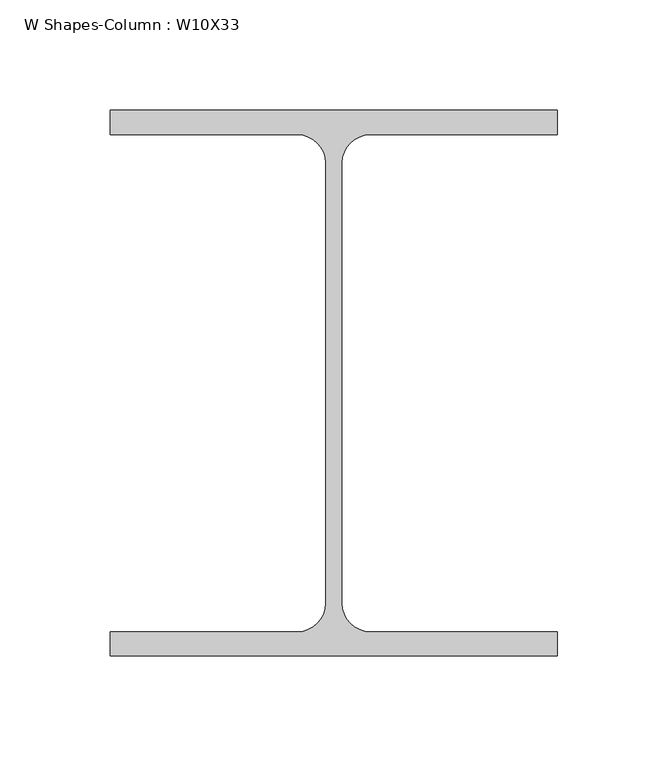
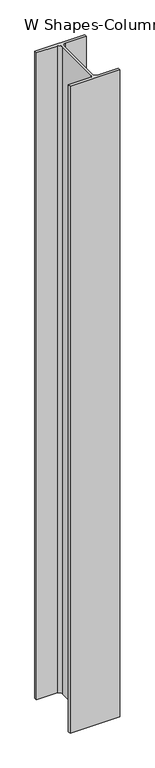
"""IFC4 building model written with IfcOpenShell, lengths in millimetres: column geometry, W Shapes-Column : W10X33."""

import ifcopenshell
import ifcopenshell.guid

model = None  # the IFC model being written
_history = None  # IfcOwnerHistory: only IFC2X3 demands one
_inside = {}  # id of a spatial element -> (the spatial element, [elements in it])
_under = {}  # id of a project, library or spatial element -> (it, [spatial elements below it])
_declared = {}  # id of a project -> (the project, [libraries it declares])
_typed = {}  # id of a type object -> (the type object, [elements of that type])
_made_of = {}  # id of a material, layer set ... -> (it, [elements and type objects made of it])


def new_model(schema):
    """Start an empty IFC model of exactly this schema.

    Asked for "IFC4X3", IfcOpenShell would pick the latest addendum, in which some entities
    have other attributes; the version numbers below select the first issue.
    IFC2X3 requires an IfcOwnerHistory on every rooted entity: one is made here for all.
    """
    global model, _history
    if schema == "IFC4X3":
        model = ifcopenshell.file(schema_version=(4, 3, 0, 0))
    else:
        model = ifcopenshell.file(schema=schema)
    _inside.clear()
    _under.clear()
    _declared.clear()
    _typed.clear()
    _made_of.clear()
    _history = None
    if model.schema == "IFC2X3":
        org = make("IfcOrganization", Name="unknown")
        user = make(
            "IfcPersonAndOrganization",
            ThePerson=make("IfcPerson", FamilyName="unknown"),
            TheOrganization=org,
        )
        app = make(
            "IfcApplication",
            ApplicationDeveloper=org,
            Version="unknown",
            ApplicationFullName="unknown",
            ApplicationIdentifier="unknown",
        )
        _history = make(
            "IfcOwnerHistory",
            OwningUser=user,
            OwningApplication=app,
            ChangeAction="ADDED",
            CreationDate=0,
        )
    return model


def make(cls, **values):
    """One entity of the class cls with the attributes given. An attribute that is None is left unset."""
    return model.create_entity(
        cls, **{name: value for name, value in values.items() if value is not None}
    )


def rooted(cls, **values):
    """An entity with a GlobalId (a new one), such as an element, a storey or a relation."""
    return make(cls, GlobalId=ifcopenshell.guid.new(), OwnerHistory=_history, **values)


def si_unit(unit_type, name, prefix=None):
    """IfcSIUnit, for example si_unit("LENGTHUNIT", "METRE", prefix="MILLI")."""
    return make("IfcSIUnit", UnitType=unit_type, Prefix=prefix, Name=name)


def assignment(units):
    """IfcUnitAssignment: the units of a project."""
    return None if units is None else make("IfcUnitAssignment", Units=units)


def point(xyz):
    """IfcCartesianPoint."""
    return None if xyz is None else make("IfcCartesianPoint", Coordinates=xyz)


def direction(xyz):
    """IfcDirection."""
    return None if xyz is None else make("IfcDirection", DirectionRatios=xyz)


def frame(location, z_axis=None, x_axis=None):
    """IfcAxis2Placement3D, a coordinate frame: its origin and axes. An axis left out is left unset."""
    return make(
        "IfcAxis2Placement3D",
        Location=point(location),
        Axis=direction(z_axis),
        RefDirection=direction(x_axis),
    )


def frame_2d(location, x_axis=None):
    """IfcAxis2Placement2D, a coordinate frame in the plane: its origin and x axis."""
    return make(
        "IfcAxis2Placement2D", Location=point(location), RefDirection=direction(x_axis)
    )


def origin():
    """The frame at (0, 0, 0) with its axes left unset."""
    return frame((0.0, 0.0, 0.0))


def place(relative_to, where):
    """IfcLocalPlacement: puts the frame where relative to a parent placement (None: the world)."""
    return make(
        "IfcLocalPlacement", PlacementRelTo=relative_to, RelativePlacement=where
    )


def context(
    kind, dimensions, precision=None, world=None, true_north=None, identifier=None
):
    """IfcGeometricRepresentationContext, for example the 3D "Model" context."""
    return make(
        "IfcGeometricRepresentationContext",
        ContextIdentifier=identifier,
        ContextType=kind,
        CoordinateSpaceDimension=dimensions,
        Precision=precision,
        WorldCoordinateSystem=world,
        TrueNorth=true_north,
    )


def project(units=None, contexts=None):
    """IfcProject with its units and contexts."""
    return rooted(
        "IfcProject",
        Name="project",
        RepresentationContexts=contexts,
        UnitsInContext=assignment(units),
    )


def spatial(cls, under=None, at=None, **own):
    """A site, building, storey or space (cls), placed at a placement, below another one or the project."""
    s = rooted(cls, ObjectPlacement=at, **own)
    if under is not None:
        _under.setdefault(under.id(), (under, []))[1].append(s)
    return s


def polyline(points):
    """IfcPolyline through the points."""
    return make("IfcPolyline", Points=[point(p) for p in points])


def circle_curve(where, radius):
    """IfcCircle in the frame where."""
    return make("IfcCircle", Position=where, Radius=radius)


def trimmed(basis, trim1, trim2, sense, master):
    """IfcTrimmedCurve: the piece of a basis curve between two trims."""
    return make(
        "IfcTrimmedCurve",
        BasisCurve=basis,
        Trim1=trim1,
        Trim2=trim2,
        SenseAgreement=sense,
        MasterRepresentation=master,
    )


def segment(curve, same_sense, transition):
    """IfcCompositeCurveSegment."""
    return make(
        "IfcCompositeCurveSegment",
        Transition=transition,
        SameSense=same_sense,
        ParentCurve=curve,
    )


def composite_curve(segments, self_intersect=None):
    """IfcCompositeCurve: segments joined end to end."""
    return make("IfcCompositeCurve", Segments=segments, SelfIntersect=self_intersect)


def outline(outer, holes=None, kind="AREA"):
    """IfcArbitraryClosedProfileDef: a profile drawn as a closed curve; with holes, ...WithVoids."""
    if holes is None:
        return make("IfcArbitraryClosedProfileDef", ProfileType=kind, OuterCurve=outer)
    return make(
        "IfcArbitraryProfileDefWithVoids",
        ProfileType=kind,
        OuterCurve=outer,
        InnerCurves=holes,
    )


def extrude(swept, where, along, depth):
    """IfcExtrudedAreaSolid: the profile swept, set in the frame where, extruded along a direction by depth."""
    return make(
        "IfcExtrudedAreaSolid",
        SweptArea=swept,
        Position=where,
        ExtrudedDirection=direction(along),
        Depth=depth,
    )


def shape(context_of_items, identifier, shape_type, items):
    """IfcShapeRepresentation: the items that make up one representation, for example the "Body"."""
    return make(
        "IfcShapeRepresentation",
        ContextOfItems=context_of_items,
        RepresentationIdentifier=identifier,
        RepresentationType=shape_type,
        Items=items,
    )


def source(mapping_origin, context_of_items, identifier, shape_type, items):
    """IfcRepresentationMap: a shape defined once, which mapped items show again and again."""
    return make(
        "IfcRepresentationMap",
        MappingOrigin=mapping_origin,
        MappedRepresentation=shape(context_of_items, identifier, shape_type, items),
    )


def transform(
    local_origin,
    x_axis=None,
    y_axis=None,
    z_axis=None,
    scale=None,
    scale2=None,
    scale3=None,
    uniform=True,
):
    """IfcCartesianTransformationOperator3D, or its non-uniform kind. x_axis, y_axis, z_axis: its Axis1, 2, 3."""
    if uniform:
        return make(
            "IfcCartesianTransformationOperator3D",
            Axis1=direction(x_axis),
            Axis2=direction(y_axis),
            LocalOrigin=point(local_origin),
            Scale=scale,
            Axis3=direction(z_axis),
        )
    return make(
        "IfcCartesianTransformationOperator3DnonUniform",
        Axis1=direction(x_axis),
        Axis2=direction(y_axis),
        LocalOrigin=point(local_origin),
        Scale=scale,
        Axis3=direction(z_axis),
        Scale2=scale2,
        Scale3=scale3,
    )


def mapped(mapping_source, mapping_target):
    """IfcMappedItem: shows the shape of a source again, moved by a transform."""
    return make(
        "IfcMappedItem", MappingSource=mapping_source, MappingTarget=mapping_target
    )


def made_of(thing, what):
    """Note that an element or type object is made of a material, layer set ...; save() writes the relation."""
    if what is not None:
        _made_of.setdefault(what.id(), (what, []))[1].append(thing)
    return thing


def element(
    cls,
    number,
    at=None,
    inside=None,
    cuts=None,
    type_object=None,
    material=None,
    context=None,
    identifier="Body",
    shape_type=None,
    held_by="IfcProductDefinitionShape",
    body=None,
    shapes=None,
    **own,
):
    """One element of the class cls, such as IfcWall. Its Tag is "e" and its number.

    at: its placement. inside: the storey or other place that contains it. cuts: it is an
    opening in that element (IfcRelVoidsElement). A single representation is given by context,
    identifier, shape_type and body (its items); several are given by shapes. held_by: the class
    of the entity that holds the representations. save() writes the other relations.
    """
    e = rooted(cls, Tag="e%d" % number, ObjectPlacement=at, **own)
    if body is not None:
        shapes = [shape(context, identifier, shape_type, body)]
    if shapes is not None:
        e.Representation = make(held_by, Representations=shapes)
    if inside is not None:
        _inside.setdefault(inside.id(), (inside, []))[1].append(e)
    if cuts is not None:
        rooted(
            "IfcRelVoidsElement", RelatingBuildingElement=cuts, RelatedOpeningElement=e
        )
    if type_object is not None:
        _typed.setdefault(type_object.id(), (type_object, []))[1].append(e)
    return made_of(e, material)


def aggregate(whole, parts):
    """IfcRelAggregates: a whole, such as a stair, and the parts it consists of."""
    return rooted("IfcRelAggregates", RelatingObject=whole, RelatedObjects=parts)


def save(model, path):
    """Write the relations noted so far, then the file.

    IfcRelAggregates (storeys below a building ...), IfcRelContainedInSpatialStructure (elements
    in a storey), IfcRelDefinesByType, IfcRelAssociatesMaterial and IfcRelDeclares: one each for
    every whole, place, type object, material and project.
    """
    for whole, parts in _under.values():
        aggregate(whole, parts)
    for where, things in _inside.values():
        rooted(
            "IfcRelContainedInSpatialStructure",
            RelatedElements=things,
            RelatingStructure=where,
        )
    for kind, things in _typed.values():
        rooted("IfcRelDefinesByType", RelatedObjects=things, RelatingType=kind)
    for what, things in _made_of.values():
        rooted("IfcRelAssociatesMaterial", RelatedObjects=things, RelatingMaterial=what)
    for by, libraries in _declared.values():
        rooted("IfcRelDeclares", RelatingContext=by, RelatedDefinitions=libraries)
    model.write(path)


def w_shapes_column_w10x33_6cbc947e(model_context):
    return source(origin(), model_context, "Body", "SweptSolid", [
        extrude(outline(composite_curve([segment(polyline([(101.092, 123.571), (101.092, 112.522), (16.383, 112.522)]), True, "CONTINUOUS"), segment(trimmed(circle_curve(frame_2d((16.383, 99.822)), 12.7), [point((16.383, 112.522))], [point((3.683, 99.822))], True, "CARTESIAN"), True, "CONTINUOUS"), segment(polyline([(3.683, 99.822), (3.683, -99.822)]), True, "CONTINUOUS"), segment(trimmed(circle_curve(frame_2d((16.383, -99.822)), 12.7), [point((3.683, -99.822))], [point((16.383, -112.522))], True, "CARTESIAN"), True, "CONTINUOUS"), segment(polyline([(16.383, -112.522), (101.092, -112.522), (101.092, -123.571), (-101.092, -123.571), (-101.092, -112.522), (-16.383, -112.522)]), True, "CONTINUOUS"), segment(trimmed(circle_curve(frame_2d((-16.383, -99.822)), 12.7), [point((-16.383, -112.522))], [point((-3.683, -99.822))], True, "CARTESIAN"), True, "CONTINUOUS"), segment(polyline([(-3.683, -99.822), (-3.683, 99.822)]), True, "CONTINUOUS"), segment(trimmed(circle_curve(frame_2d((-16.383, 99.822)), 12.7), [point((-3.683, 99.822))], [point((-16.383, 112.522))], True, "CARTESIAN"), True, "CONTINUOUS"), segment(polyline([(-16.383, 112.522), (-101.092, 112.522), (-101.092, 123.571), (101.092, 123.571)]), True, "CONTINUOUS")], self_intersect=False)), frame((0.0, 0.0, 13411.2), z_axis=(0.0, 0.0, 1.0), x_axis=(1.0, 0.0, 0.0)), (0.0, 0.0, 1.0), 2775.3938204),
    ])


if __name__ == "__main__":
    model = new_model("IFC4")
    model_context = context("Model", 3, world=origin())
    ifc_project = project(units=[si_unit("LENGTHUNIT", "METRE", prefix="MILLI")], contexts=[model_context])
    site = spatial("IfcSite", under=ifc_project)
    building = spatial("IfcBuilding", under=site)
    placement = place(None, origin())
    w_shapes_column_w10x33_shape = w_shapes_column_w10x33_6cbc947e(model_context)
    element("IfcColumn", 1, ObjectType="W Shapes-Column : W10X33", at=placement, inside=building, context=model_context, shape_type="MappedRepresentation", body=[
        mapped(w_shapes_column_w10x33_shape, transform((0.0, 0.0, 0.0), x_axis=(1.0, 0.0, 0.0), y_axis=(0.0, 1.0, 0.0), z_axis=(0.0, 0.0, 1.0))),
    ])
    save(model, "model.ifc")
